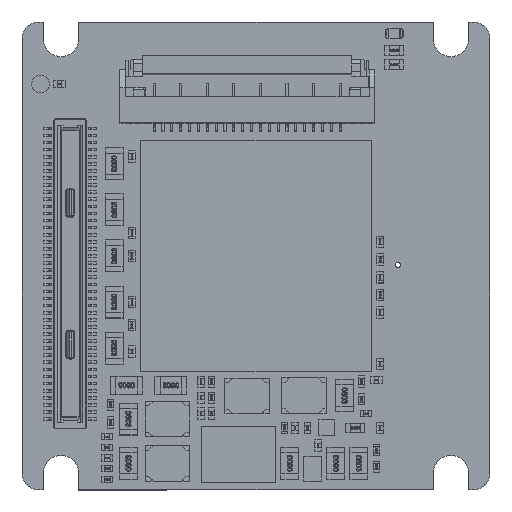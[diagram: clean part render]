
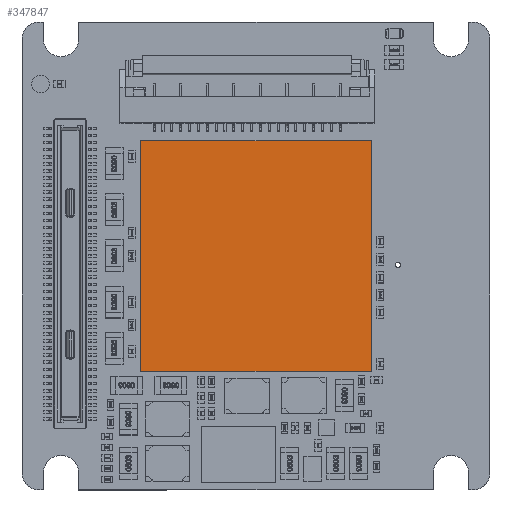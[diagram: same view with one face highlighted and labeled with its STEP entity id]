
A CAD part, top view. The second image highlights one B-rep face of the part: STEP entity #347847.
In plain terms, the highlighted planar face has unit normal (0, 0, 1).
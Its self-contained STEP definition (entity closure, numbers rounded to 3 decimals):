
#10852 = ORIENTED_EDGE ( 'NONE', *, *, #447567, .F. ) ;
#16696 = LINE ( 'NONE', #353487, #470827 ) ;
#19409 = DIRECTION ( 'NONE',  ( 1., 0., 0. ) ) ;
#20302 = VERTEX_POINT ( 'NONE', #107177 ) ;
#30455 = VERTEX_POINT ( 'NONE', #456689 ) ;
#98056 = VECTOR ( 'NONE', #341783, 1000. ) ;
#107177 = CARTESIAN_POINT ( 'NONE',  ( -6.5, -6.5, 6.172 ) ) ;
#150358 = LINE ( 'NONE', #403672, #151720 ) ;
#151720 = VECTOR ( 'NONE', #484646, 1000. ) ;
#164482 = CARTESIAN_POINT ( 'NONE',  ( -6.5, 6.5, 6.172 ) ) ;
#165814 = DIRECTION ( 'NONE',  ( 0., -1., 0. ) ) ;
#195398 = VERTEX_POINT ( 'NONE', #294936 ) ;
#205040 = DIRECTION ( 'NONE',  ( 0., 0., -1. ) ) ;
#212353 = CARTESIAN_POINT ( 'NONE',  ( 0., 0., 6.172 ) ) ;
#221654 = CARTESIAN_POINT ( 'NONE',  ( -6.5, 6.5, 6.172 ) ) ;
#229996 = EDGE_CURVE ( 'NONE', #195398, #30455, #422774, .T. ) ;
#267875 = CARTESIAN_POINT ( 'NONE',  ( 6.5, 6.5, 6.172 ) ) ;
#281379 = EDGE_CURVE ( 'NONE', #425470, #195398, #351349, .T. ) ;
#285961 = PLANE ( 'NONE',  #343868 ) ;
#294936 = CARTESIAN_POINT ( 'NONE',  ( 6.5, 6.5, 6.172 ) ) ;
#301754 = ORIENTED_EDGE ( 'NONE', *, *, #229996, .F. ) ;
#306929 = ORIENTED_EDGE ( 'NONE', *, *, #281379, .F. ) ;
#333683 = EDGE_CURVE ( 'NONE', #20302, #425470, #16696, .T. ) ;
#341783 = DIRECTION ( 'NONE',  ( 0., -1., 0. ) ) ;
#343868 = AXIS2_PLACEMENT_3D ( 'NONE', #212353, #205040, #165814 ) ;
#347847 = ADVANCED_FACE ( 'NONE', ( #436008 ), #285961, .F. ) ;
#351349 = LINE ( 'NONE', #164482, #394365 ) ;
#353487 = CARTESIAN_POINT ( 'NONE',  ( -6.5, -6.5, 6.172 ) ) ;
#374479 = ORIENTED_EDGE ( 'NONE', *, *, #333683, .F. ) ;
#394365 = VECTOR ( 'NONE', #19409, 1000. ) ;
#403672 = CARTESIAN_POINT ( 'NONE',  ( 6.5, -6.5, 6.172 ) ) ;
#418684 = EDGE_LOOP ( 'NONE', ( #10852, #301754, #306929, #374479 ) ) ;
#422774 = LINE ( 'NONE', #267875, #98056 ) ;
#425470 = VERTEX_POINT ( 'NONE', #221654 ) ;
#436008 = FACE_OUTER_BOUND ( 'NONE', #418684, .T. ) ;
#447567 = EDGE_CURVE ( 'NONE', #30455, #20302, #150358, .T. ) ;
#456689 = CARTESIAN_POINT ( 'NONE',  ( 6.5, -6.5, 6.172 ) ) ;
#463957 = DIRECTION ( 'NONE',  ( 0., 1., 0. ) ) ;
#470827 = VECTOR ( 'NONE', #463957, 1000. ) ;
#484646 = DIRECTION ( 'NONE',  ( -1., 0., 0. ) ) ;
